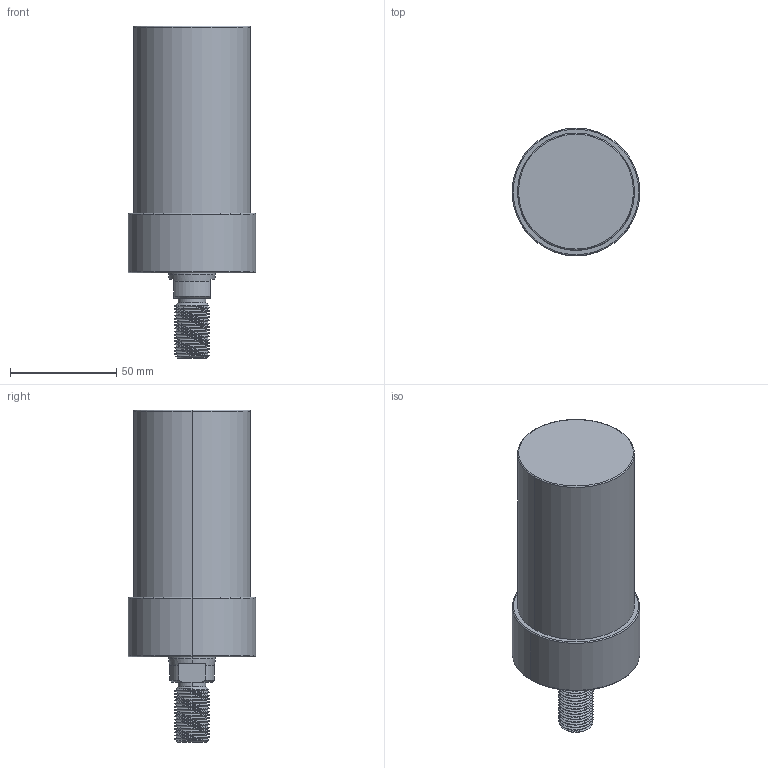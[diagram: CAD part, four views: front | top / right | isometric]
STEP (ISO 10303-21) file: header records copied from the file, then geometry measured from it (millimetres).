
FILE_DESCRIPTION (( 'STEP AP203' ), '1' );
FILE_NAME ('CLLU-055GT-075.STEP', '2020-01-16T00:55:51', ( '' ), ( '' ), 'SwSTEP 2.0', 'SolidWorks 2015', '' );
FILE_SCHEMA (( 'CONFIG_CONTROL_DESIGN' ));
Length unit declared in the file: millimetre
Products named in the file (1): CLLU-055GT-075
Bounding box: 60 x 60 x 156 mm (x, y, z)
Volume: 295532.9 mm3; surface area: 30177.1 mm2
Topology: 1 solids, 1 shells, 101 faces, 253 edges, 155 vertices
Faces by surface type: cylinder 55, cone 26, plane 12, torus 6, bspline 2
Entity records: 4863 total; most frequent: CARTESIAN_POINT 2593, ORIENTED_EDGE 490, DIRECTION 438, EDGE_CURVE 245, AXIS2_PLACEMENT_3D 176, VERTEX_POINT 155, EDGE_LOOP 110, ADVANCED_FACE 101
